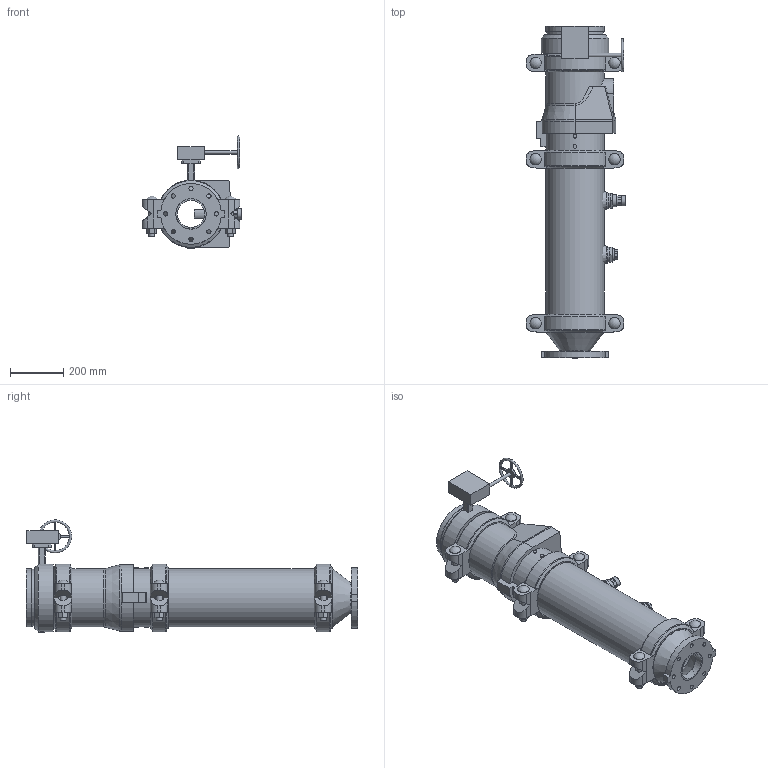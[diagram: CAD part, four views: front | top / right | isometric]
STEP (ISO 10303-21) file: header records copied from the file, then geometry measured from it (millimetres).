
FILE_DESCRIPTION(/* description */ ('VIC DVI PUMP DROP VERT S/380 (OGSxFLG) (S/924-0.75)','CAx-IF Rec.Pracs.---Representation and Presentation of Product Manufacturing Information (PMI)---4.0---2014-10-13'),/* implementation_level */ '2;1');
FILE_NAME(/* name */ 'C:\Users\Public\Documents\Victaulic.Temp\A765\Victaulic_IPS_Vertical DVI_CL 150_Series 380 (OGSxFLG)_924 (0.75)_08.0x04.0 (200x100).stp',/* time_stamp */ '2022-07-25T11:13:06+02:00',/* author */ ('Vjadhav'),/* organization */ ('Victaulic'),/* preprocessor_version */ 'ST-DEVELOPER v18',/* originating_system */ 'Autodesk Inventor 2020',/* authorisation */ '');
FILE_SCHEMA (('AP242_MANAGED_MODEL_BASED_3D_ENGINEERING_MIM_LF { 1 0 10303 442 1 1 4 }'));
Length unit declared in the file: inch
Products named in the file (9): 380_924 (0.75)-08.0x04.0; 741-04.0; 050-08.0x04.0; Pipe-08.0; 177N-08.0; 779-08.0; 923-04.0x0.75; 924-04.0x0.75; 761-08.0
Assembly tree (10 placements, depth 2):
  380_924 (0.75)-08.0x04.0
    741-04.0
    050-08.0x04.0
    177N-08.0  x3
    Pipe-08.0
    779-08.0
    923-04.0x0.75
    924-04.0x0.75
    761-08.0
Bounding box: 376.21 x 1249.43 x 422.39 mm (x, y, z)
Volume: 16697906.1 mm3; surface area: 2639513.7 mm2
Topology: 10 solids, 11 shells, 565 faces, 1510 edges, 1008 vertices
Faces by surface type: plane 339, cylinder 179, cone 20, torus 19, sphere 6, bspline 2
Full cylindrical faces by diameter (mm): 8.636 x4, 12.446 x1, 12.7 x1, 13.716 x4, 15.875 x8, 22.225 x6, 22.86 x1, 26.67 x2, 38.608 x1, 39.125 x1, 42.85 x6, 45.974 x4, 55.118 x1, 55.626 x2, 102.26 x1, 110.084 x1, 114.3 x3, 202.717 x4, 206.375 x3, 214.401 x7, 219.075 x19, 254 x1
Entity records: 13505 total; most frequent: CARTESIAN_POINT 2826, DIRECTION 2180, ORIENTED_EDGE 2016, EDGE_CURVE 1008, AXIS2_PLACEMENT_3D 830, VERTEX_POINT 680, LINE 520, VECTOR 520
